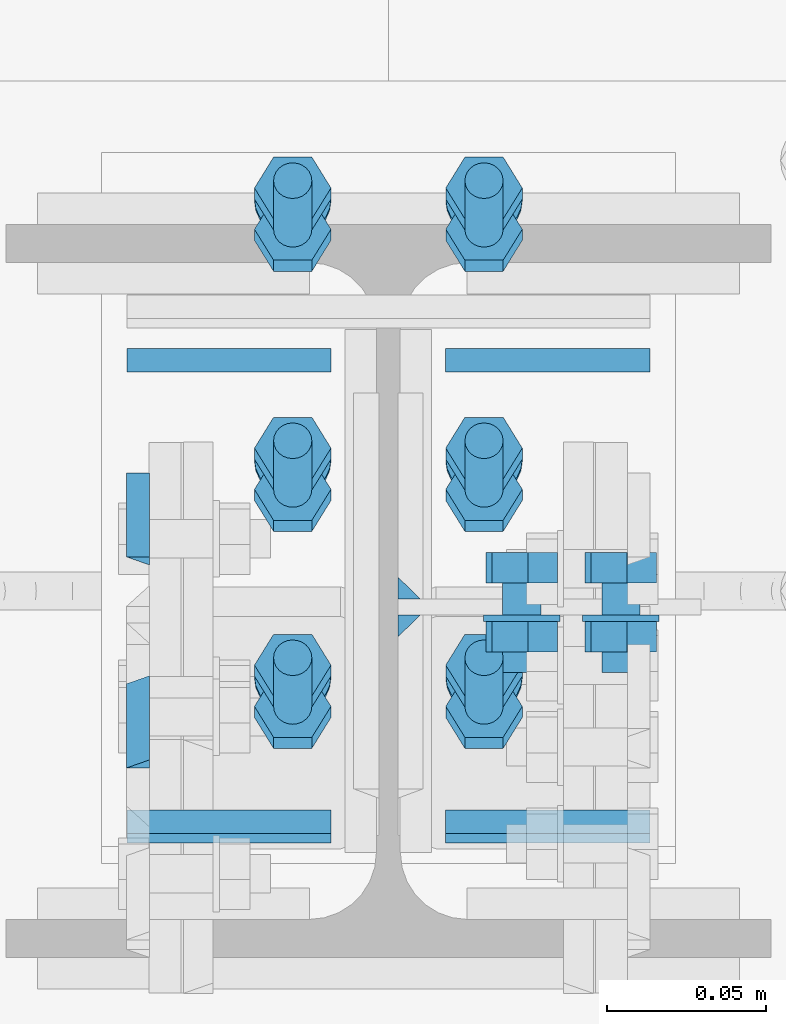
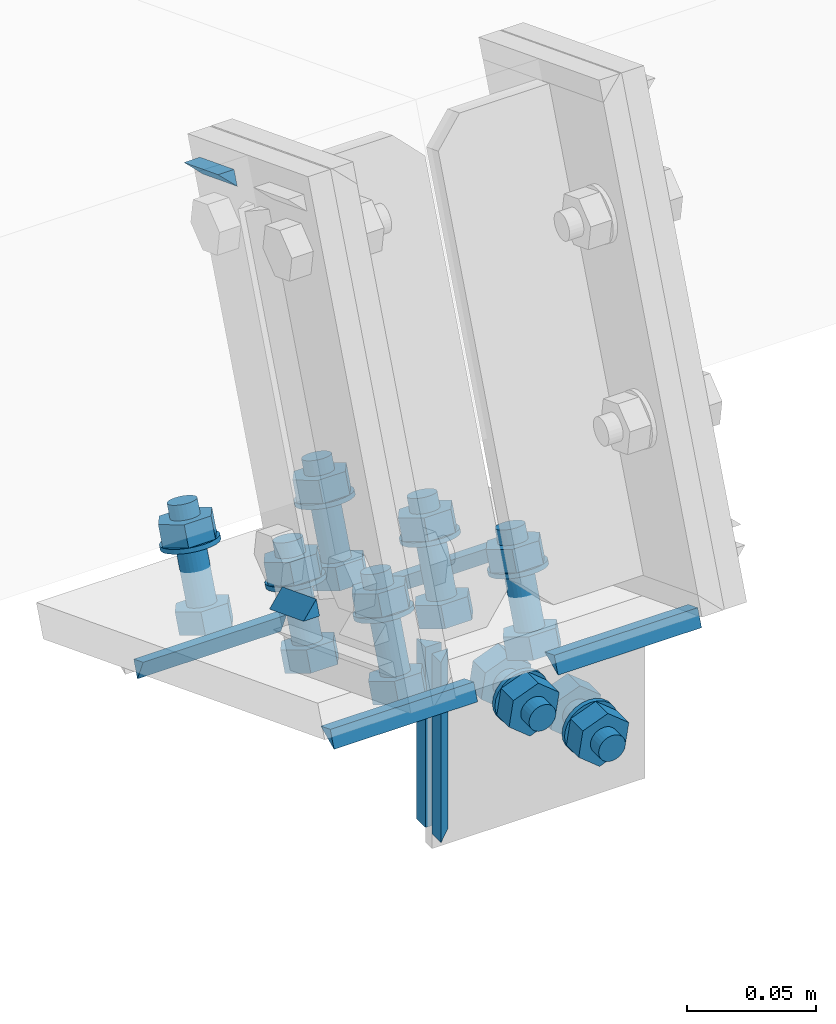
# One storey, part 54 of 72: 32 mechanical fasteners, 11 fasteners.
"""IFC4 building model written with IfcOpenShell, lengths in metres."""

from ifc_helpers import new_model, si_unit, frame, origin_with_axes, place, context, project, spatial, polyline, outline, extrude, type_object, element, save


model = new_model("IFC4")

# Units and contexts
model_context = context("Model", 3, precision=1e-05, world=origin_with_axes())
ifc_project = project(units=[si_unit("LENGTHUNIT", "METRE"), si_unit("AREAUNIT", "SQUARE_METRE"), si_unit("VOLUMEUNIT", "CUBIC_METRE"), si_unit("MASSUNIT", "GRAM", prefix="KILO"), si_unit("TIMEUNIT", "SECOND"), si_unit("PLANEANGLEUNIT", "RADIAN"), si_unit("SOLIDANGLEUNIT", "STERADIAN"), si_unit("THERMODYNAMICTEMPERATUREUNIT", "DEGREE_CELSIUS")], contexts=[model_context])

# Site, building, storey
placement_1 = place(None, origin_with_axes())
site = spatial("IfcSite", under=ifc_project, at=placement_1, Name="Italia", CompositionType="ELEMENT")
building = spatial("IfcBuilding", under=site, at=placement_1, Name="Uffici", CompositionType="ELEMENT")
storey = spatial("IfcBuildingStorey", under=building, at=placement_1, Name="Storey 0", CompositionType="ELEMENT", Elevation=0.0)

# Fasteners
fastener_type_1 = type_object("IfcFastenerType", Name="Collegamento 0204_0104", PredefinedType="WELD")
placement_2 = place(placement_1, origin_with_axes())
fastener_1_placement = place(placement_2, origin_with_axes())
element("IfcFastener", 1, at=fastener_1_placement, inside=storey, type_object=fastener_type_1, Name="Collegamento 0204_0104", context=model_context, shape_type="SweptSolid", body=[
    extrude(outline(polyline([(0.0, 0.0), (-0.0103468, -0.00475454), (-0.00739191, 0.00286627), (0.0, 0.0)])), frame((9.47295, -0.0686362, 7.01462), z_axis=(1.0, 0.0, 0.0), x_axis=(0.0, 1.0, 0.0)), (0.0, 0.0, 1.0), 0.0641003),
])
fastener_type_2 = type_object("IfcFastenerType", Name="Collegamento 0204_0104", PredefinedType="WELD")
fastener_2_placement = place(placement_2, origin_with_axes())
element("IfcFastener", 2, at=fastener_2_placement, inside=storey, type_object=fastener_type_2, Name="Collegamento 0204_0104", context=model_context, shape_type="SweptSolid", body=[
    extrude(outline(polyline([(0.0, 0.0), (-0.0103468, -0.00475454), (-0.00739191, 0.00286627), (0.0, 0.0)])), frame((9.37295, -0.0686362, 7.01462), z_axis=(1.0, 0.0, 0.0), x_axis=(0.0, 1.0, 0.0)), (0.0, 0.0, 1.0), 0.0641003),
])
fastener_type_3 = type_object("IfcFastenerType", Name="Collegamento 0204_0104", PredefinedType="WELD")
fastener_3_placement = place(placement_2, origin_with_axes())
element("IfcFastener", 3, at=fastener_3_placement, inside=storey, type_object=fastener_type_3, Name="Collegamento 0204_0104", context=model_context, shape_type="SweptSolid", body=[
    extrude(outline(polyline([(0.0, 0.0), (-0.00443701, -0.0104866), (-0.00739191, -0.00286627), (0.0, 0.0)])), frame((9.43705, 0.0686731, 6.96138), z_axis=(-1.0, 0.0, 0.0), x_axis=(0.0, -1.0, 0.0)), (0.0, 0.0, 1.0), 0.0641003),
])
fastener_type_4 = type_object("IfcFastenerType", Name="Collegamento 0204_0104", PredefinedType="WELD")
fastener_4_placement = place(placement_2, origin_with_axes())
element("IfcFastener", 4, at=fastener_4_placement, inside=storey, type_object=fastener_type_4, Name="Collegamento 0204_0104", context=model_context, shape_type="SweptSolid", body=[
    extrude(outline(polyline([(0.0, 0.0), (-0.00443701, -0.0104866), (-0.00739191, -0.00286627), (0.0, 0.0)])), frame((9.53705, 0.0686731, 6.96138), z_axis=(-1.0, 0.0, 0.0), x_axis=(0.0, -1.0, 0.0)), (0.0, 0.0, 1.0), 0.0641003),
])
fastener_type_5 = type_object("IfcFastenerType", Name="Collegamento 0204_0104", PredefinedType="WELD")
fastener_5_placement = place(placement_2, origin_with_axes())
element("IfcFastener", 5, at=fastener_5_placement, inside=storey, type_object=fastener_type_5, Name="Collegamento 0204_0104", context=model_context, shape_type="SweptSolid", body=[
    extrude(outline(polyline([(0.0, 0.0), (-0.0103468, -0.00475454), (-0.00739191, 0.00286627), (0.0, 0.0)])), frame((9.47295, -0.0686362, 7.01462), z_axis=(1.0, 0.0, 0.0), x_axis=(0.0, 1.0, 0.0)), (0.0, 0.0, 1.0), 0.0641003),
])
fastener_type_6 = type_object("IfcFastenerType", Name="Collegamento 0204_0104", PredefinedType="WELD")
fastener_6_placement = place(placement_2, origin_with_axes())
element("IfcFastener", 6, at=fastener_6_placement, inside=storey, type_object=fastener_type_6, Name="Collegamento 0204_0104", context=model_context, shape_type="SweptSolid", body=[
    extrude(outline(polyline([(0.0, 0.0), (-0.0103468, -0.00475454), (-0.00739191, 0.00286627), (0.0, 0.0)])), frame((9.37295, -0.0686362, 7.01462), z_axis=(1.0, 0.0, 0.0), x_axis=(0.0, 1.0, 0.0)), (0.0, 0.0, 1.0), 0.0641003),
])
fastener_type_7 = type_object("IfcFastenerType", Name="Collegamento 0204_0104", PredefinedType="WELD")
fastener_7_placement = place(placement_2, origin_with_axes())
element("IfcFastener", 7, at=fastener_7_placement, inside=storey, type_object=fastener_type_7, Name="Collegamento 0204_0104", context=model_context, shape_type="SweptSolid", body=[
    extrude(outline(polyline([(0.0, 0.0), (-0.00443701, -0.0104866), (-0.00739191, -0.00286627), (0.0, 0.0)])), frame((9.43705, 0.0686731, 6.96138), z_axis=(-1.0, 0.0, 0.0), x_axis=(0.0, -1.0, 0.0)), (0.0, 0.0, 1.0), 0.0641003),
])

# Mechanical fasteners
mechanical_fastener_type_1 = type_object("IfcMechanicalFastenerType", Name="Collegamento 0204_0104", PredefinedType="BOLT")
mechanical_fastener_1_placement = place(placement_2, origin_with_axes())
element("IfcMechanicalFastener", 8, at=mechanical_fastener_1_placement, inside=storey, type_object=mechanical_fastener_type_1, Name="Collegamento 0204_0104", NominalDiameter=0.0119997, context=model_context, shape_type="SweptSolid", body=[
    extrude(outline(polyline([(0.0, 0.0), (0.0120001, 0.0), (0.0179996, -0.0103922), (0.0120001, -0.0207846), (0.0, -0.0207846), (-0.00600052, -0.0103922), (0.0, 0.0)])), frame((9.479, 0.103764, 6.94772), z_axis=(0.0, -0.361526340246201, -0.932361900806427), x_axis=(1.0, 0.0, 0.0)), (0.0, 0.0, 1.0), 0.00960004),
])
mechanical_fastener_type_2 = type_object("IfcMechanicalFastenerType", Name="Collegamento 0204_0104", PredefinedType="BOLT")
mechanical_fastener_2_placement = place(placement_2, origin_with_axes())
element("IfcMechanicalFastener", 9, at=mechanical_fastener_2_placement, inside=storey, type_object=mechanical_fastener_type_2, Name="Collegamento 0204_0104", NominalDiameter=0.012, context=model_context, shape_type="SweptSolid", body=[
    extrude(outline(polyline([(0.0, 0.0), (-0.000204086, -0.00155282), (-0.000802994, -0.00300002), (-0.00175667, -0.00424266), (-0.00299931, -0.00519633), (-0.00444698, -0.00579548), (-0.00599957, -0.0059998), (-0.00755215, -0.00579548), (-0.00899982, -0.00519633), (-0.0102425, -0.00424266), (-0.0111961, -0.00300002), (-0.011795, -0.00155282), (-0.0119991, 0.0), (-0.011795, 0.00155282), (-0.0111961, 0.00300002), (-0.0102425, 0.00424266), (-0.00899982, 0.00519633), (-0.00755215, 0.00579548), (-0.00599957, 0.00600004), (-0.00444698, 0.00579548), (-0.00299931, 0.00519633), (-0.00175667, 0.00424266), (-0.000802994, 0.00300002), (-0.000204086, 0.00155282), (0.0, 0.0)])), frame((9.491, 0.12871, 6.9833), z_axis=(0.0, -0.361526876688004, -0.932361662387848), x_axis=(1.0, 0.0, 0.0)), (0.0, 0.0, 1.0), 0.0422001),
])
mechanical_fastener_type_3 = type_object("IfcMechanicalFastenerType", Name="Collegamento 0204_0104", PredefinedType="BOLT")
mechanical_fastener_3_placement = place(placement_2, origin_with_axes())
element("IfcMechanicalFastener", 10, at=mechanical_fastener_3_placement, inside=storey, type_object=mechanical_fastener_type_3, Name="Collegamento 0204_0104", NominalDiameter=0.0119997, context=model_context, shape_type="SweptSolid", body=[
    extrude(outline(polyline([(0.0, 0.0), (0.0120001, 0.0), (0.0179996, -0.0103922), (0.0120001, -0.0207846), (0.0, -0.0207846), (-0.00600052, -0.0103922), (0.0, 0.0)])), frame((9.479, 0.116706, 6.9811), z_axis=(0.0, -0.361526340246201, -0.932361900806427), x_axis=(1.0, 0.0, 0.0)), (0.0, 0.0, 1.0), 0.00960004),
])
mechanical_fastener_type_4 = type_object("IfcMechanicalFastenerType", Name="Collegamento 0204_0104", PredefinedType="BOLT")
mechanical_fastener_4_placement = place(placement_2, origin_with_axes())
element("IfcMechanicalFastener", 11, at=mechanical_fastener_4_placement, inside=storey, type_object=mechanical_fastener_type_4, Name="Collegamento 0204_0104", NominalDiameter=0.024, context=model_context, shape_type="SweptSolid", body=[
    extrude(outline(polyline([(0.0, 0.0), (-0.000409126, -0.00310588), (-0.00160789, -0.00600004), (-0.00351524, -0.00848532), (-0.00600052, -0.0103922), (-0.00889397, -0.0115912), (-0.0120001, -0.0120001), (-0.0151062, -0.0115912), (-0.0179996, -0.0103922), (-0.0204849, -0.00848532), (-0.0223923, -0.00600004), (-0.023591, -0.00310588), (-0.0240002, 0.0), (-0.023591, 0.00310564), (-0.0223923, 0.00600004), (-0.0204849, 0.00848508), (-0.0179996, 0.0103922), (-0.0151062, 0.011591), (-0.0120001, 0.0119998), (-0.00889397, 0.011591), (-0.00600052, 0.0103922), (-0.00351524, 0.00848508), (-0.00160789, 0.00600004), (-0.000409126, 0.00310564), (0.0, 0.0)])), frame((9.497, 0.122925, 6.96839), z_axis=(0.0, -0.361528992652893, -0.932360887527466), x_axis=(1.0, 0.0, 0.0)), (0.0, 0.0, 1.0), 0.0020002),
])
mechanical_fastener_type_5 = type_object("IfcMechanicalFastenerType", Name="Collegamento 0204_0104", PredefinedType="BOLT")
mechanical_fastener_5_placement = place(placement_2, origin_with_axes())
element("IfcMechanicalFastener", 12, at=mechanical_fastener_5_placement, inside=storey, type_object=mechanical_fastener_type_5, Name="Collegamento 0204_0104", NominalDiameter=0.0119997, context=model_context, shape_type="SweptSolid", body=[
    extrude(outline(polyline([(0.0, 0.0), (0.0120001, 0.0), (0.0180006, -0.0103922), (0.0120001, -0.0207846), (0.0, -0.0207846), (-0.00599957, -0.0103922), (0.0, 0.0)])), frame((9.419, 0.103764, 6.94772), z_axis=(0.0, -0.361526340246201, -0.932361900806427), x_axis=(1.0, 0.0, 0.0)), (0.0, 0.0, 1.0), 0.00960004),
])
mechanical_fastener_type_6 = type_object("IfcMechanicalFastenerType", Name="Collegamento 0204_0104", PredefinedType="BOLT")
mechanical_fastener_6_placement = place(placement_2, origin_with_axes())
element("IfcMechanicalFastener", 13, at=mechanical_fastener_6_placement, inside=storey, type_object=mechanical_fastener_type_6, Name="Collegamento 0204_0104", NominalDiameter=0.012, context=model_context, shape_type="SweptSolid", body=[
    extrude(outline(polyline([(0.0, 0.0), (-0.000204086, -0.00155282), (-0.000802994, -0.00300002), (-0.00175667, -0.00424266), (-0.00299931, -0.00519633), (-0.00444698, -0.00579548), (-0.00599957, -0.0059998), (-0.00755215, -0.00579548), (-0.00899982, -0.00519633), (-0.0102425, -0.00424266), (-0.0111961, -0.00300002), (-0.011795, -0.00155282), (-0.0119991, 0.0), (-0.011795, 0.00155282), (-0.0111961, 0.00300002), (-0.0102425, 0.00424266), (-0.00899982, 0.00519633), (-0.00755215, 0.00579548), (-0.00599957, 0.00600004), (-0.00444698, 0.00579548), (-0.00299931, 0.00519633), (-0.00175667, 0.00424266), (-0.000802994, 0.00300002), (-0.000204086, 0.00155282), (0.0, 0.0)])), frame((9.431, 0.12871, 6.9833), z_axis=(0.0, -0.361526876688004, -0.932361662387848), x_axis=(1.0, 0.0, 0.0)), (0.0, 0.0, 1.0), 0.0422001),
])
mechanical_fastener_type_7 = type_object("IfcMechanicalFastenerType", Name="Collegamento 0204_0104", PredefinedType="BOLT")
mechanical_fastener_7_placement = place(placement_2, origin_with_axes())
element("IfcMechanicalFastener", 14, at=mechanical_fastener_7_placement, inside=storey, type_object=mechanical_fastener_type_7, Name="Collegamento 0204_0104", NominalDiameter=0.0119997, context=model_context, shape_type="SweptSolid", body=[
    extrude(outline(polyline([(0.0, 0.0), (0.0120001, 0.0), (0.0180006, -0.0103922), (0.0120001, -0.0207846), (0.0, -0.0207846), (-0.00599957, -0.0103922), (0.0, 0.0)])), frame((9.419, 0.116706, 6.9811), z_axis=(0.0, -0.361526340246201, -0.932361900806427), x_axis=(1.0, 0.0, 0.0)), (0.0, 0.0, 1.0), 0.00960004),
])
mechanical_fastener_type_8 = type_object("IfcMechanicalFastenerType", Name="Collegamento 0204_0104", PredefinedType="BOLT")
mechanical_fastener_8_placement = place(placement_2, origin_with_axes())
element("IfcMechanicalFastener", 15, at=mechanical_fastener_8_placement, inside=storey, type_object=mechanical_fastener_type_8, Name="Collegamento 0204_0104", NominalDiameter=0.024, context=model_context, shape_type="SweptSolid", body=[
    extrude(outline(polyline([(0.0, 0.0), (-0.000409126, -0.00310588), (-0.00160789, -0.00600004), (-0.00351524, -0.00848532), (-0.00600052, -0.0103922), (-0.00889397, -0.0115912), (-0.0120001, -0.0120001), (-0.0151062, -0.0115912), (-0.0179996, -0.0103922), (-0.0204849, -0.00848532), (-0.0223923, -0.00600004), (-0.023591, -0.00310588), (-0.0240002, 0.0), (-0.023591, 0.00310564), (-0.0223923, 0.00600004), (-0.0204849, 0.00848508), (-0.0179996, 0.0103922), (-0.0151062, 0.011591), (-0.0120001, 0.0119998), (-0.00889397, 0.011591), (-0.00600052, 0.0103922), (-0.00351524, 0.00848508), (-0.00160789, 0.00600004), (-0.000409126, 0.00310564), (0.0, 0.0)])), frame((9.437, 0.122925, 6.96839), z_axis=(0.0, -0.361528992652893, -0.932360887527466), x_axis=(1.0, 0.0, 0.0)), (0.0, 0.0, 1.0), 0.0020002),
])
mechanical_fastener_type_9 = type_object("IfcMechanicalFastenerType", Name="Collegamento 0204_0104", PredefinedType="BOLT")
mechanical_fastener_9_placement = place(placement_2, origin_with_axes())
element("IfcMechanicalFastener", 16, at=mechanical_fastener_9_placement, inside=storey, type_object=mechanical_fastener_type_9, Name="Collegamento 0204_0104", NominalDiameter=0.0119998, context=model_context, shape_type="SweptSolid", body=[
    extrude(outline(polyline([(0.0, 0.0), (0.0120001, 0.0), (0.0179996, -0.0103927), (0.0120001, -0.0207849), (0.0, -0.0207849), (-0.00600052, -0.0103927), (0.0, 0.0)])), frame((9.479, -0.0458802, 7.00574), z_axis=(0.0, -0.361526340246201, -0.932361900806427), x_axis=(1.0, 0.0, 0.0)), (0.0, 0.0, 1.0), 0.00960004),
])
mechanical_fastener_type_10 = type_object("IfcMechanicalFastenerType", Name="Collegamento 0204_0104", PredefinedType="BOLT")
mechanical_fastener_10_placement = place(placement_2, origin_with_axes())
element("IfcMechanicalFastener", 17, at=mechanical_fastener_10_placement, inside=storey, type_object=mechanical_fastener_type_10, Name="Collegamento 0204_0104", NominalDiameter=0.012, context=model_context, shape_type="SweptSolid", body=[
    extrude(outline(polyline([(0.0, 0.0), (-0.000204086, -0.00155282), (-0.000802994, -0.00300002), (-0.00175667, -0.00424266), (-0.00299931, -0.00519633), (-0.00444698, -0.00579572), (-0.00599957, -0.00600028), (-0.00755215, -0.00579572), (-0.00899982, -0.00519633), (-0.0102425, -0.00424266), (-0.0111961, -0.00300002), (-0.011795, -0.00155282), (-0.0119991, 0.0), (-0.011795, 0.00155282), (-0.0111961, 0.00300002), (-0.0102425, 0.00424266), (-0.00899982, 0.00519609), (-0.00755215, 0.00579548), (-0.00599957, 0.00600004), (-0.00444698, 0.00579548), (-0.00299931, 0.00519609), (-0.00175667, 0.00424266), (-0.000802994, 0.00300002), (-0.000204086, 0.00155282), (0.0, 0.0)])), frame((9.491, -0.0209343, 7.04133), z_axis=(0.0, -0.361528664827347, -0.932361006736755), x_axis=(1.0, 0.0, 0.0)), (0.0, 0.0, 1.0), 0.0422001),
])
mechanical_fastener_type_11 = type_object("IfcMechanicalFastenerType", Name="Collegamento 0204_0104", PredefinedType="BOLT")
mechanical_fastener_11_placement = place(placement_2, origin_with_axes())
element("IfcMechanicalFastener", 18, at=mechanical_fastener_11_placement, inside=storey, type_object=mechanical_fastener_type_11, Name="Collegamento 0204_0104", NominalDiameter=0.0119997, context=model_context, shape_type="SweptSolid", body=[
    extrude(outline(polyline([(0.0, 0.0), (0.0120001, 0.0), (0.0179996, -0.0103922), (0.0120001, -0.0207844), (0.0, -0.0207844), (-0.00600052, -0.0103922), (0.0, 0.0)])), frame((9.479, -0.0329375, 7.03912), z_axis=(0.0, -0.36154305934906, -0.932355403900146), x_axis=(1.0, 0.0, 0.0)), (0.0, 0.0, 1.0), 0.00959959),
])
mechanical_fastener_type_12 = type_object("IfcMechanicalFastenerType", Name="Collegamento 0204_0104", PredefinedType="BOLT")
mechanical_fastener_12_placement = place(placement_2, origin_with_axes())
element("IfcMechanicalFastener", 19, at=mechanical_fastener_12_placement, inside=storey, type_object=mechanical_fastener_type_12, Name="Collegamento 0204_0104", NominalDiameter=0.024, context=model_context, shape_type="SweptSolid", body=[
    extrude(outline(polyline([(0.0, 0.0), (-0.000409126, -0.00310612), (-0.00160789, -0.00600028), (-0.00351524, -0.00848532), (-0.00600052, -0.0103924), (-0.00889397, -0.0115914), (-0.0120001, -0.0120003), (-0.0151062, -0.0115914), (-0.0179996, -0.0103924), (-0.0204849, -0.00848532), (-0.0223923, -0.00600028), (-0.023591, -0.00310612), (-0.0240002, 0.0), (-0.023591, 0.00310564), (-0.0223923, 0.0059998), (-0.0204849, 0.00848508), (-0.0179996, 0.0103922), (-0.0151062, 0.011591), (-0.0120001, 0.0119998), (-0.00889397, 0.011591), (-0.00600052, 0.0103922), (-0.00351524, 0.00848508), (-0.00160789, 0.0059998), (-0.000409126, 0.00310564), (0.0, 0.0)])), frame((9.497, -0.0267188, 7.02641), z_axis=(0.0, -0.3614162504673, -0.932404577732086), x_axis=(1.0, 0.0, 0.0)), (0.0, 0.0, 1.0), 0.00200062),
])
mechanical_fastener_type_13 = type_object("IfcMechanicalFastenerType", Name="Collegamento 0204_0104", PredefinedType="BOLT")
mechanical_fastener_13_placement = place(placement_2, origin_with_axes())
element("IfcMechanicalFastener", 20, at=mechanical_fastener_13_placement, inside=storey, type_object=mechanical_fastener_type_13, Name="Collegamento 0204_0104", NominalDiameter=0.0119998, context=model_context, shape_type="SweptSolid", body=[
    extrude(outline(polyline([(0.0, 0.0), (0.0120001, 0.0), (0.0180006, -0.0103927), (0.0120001, -0.0207849), (0.0, -0.0207849), (-0.00599957, -0.0103927), (0.0, 0.0)])), frame((9.419, -0.0458802, 7.00574), z_axis=(0.0, -0.361526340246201, -0.932361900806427), x_axis=(1.0, 0.0, 0.0)), (0.0, 0.0, 1.0), 0.00960004),
])
mechanical_fastener_type_14 = type_object("IfcMechanicalFastenerType", Name="Collegamento 0204_0104", PredefinedType="BOLT")
mechanical_fastener_14_placement = place(placement_2, origin_with_axes())
element("IfcMechanicalFastener", 21, at=mechanical_fastener_14_placement, inside=storey, type_object=mechanical_fastener_type_14, Name="Collegamento 0204_0104", NominalDiameter=0.012, context=model_context, shape_type="SweptSolid", body=[
    extrude(outline(polyline([(0.0, 0.0), (-0.000204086, -0.00155282), (-0.000802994, -0.00300002), (-0.00175667, -0.00424266), (-0.00299931, -0.00519633), (-0.00444698, -0.00579572), (-0.00599957, -0.00600028), (-0.00755215, -0.00579572), (-0.00899982, -0.00519633), (-0.0102425, -0.00424266), (-0.0111961, -0.00300002), (-0.011795, -0.00155282), (-0.0119991, 0.0), (-0.011795, 0.00155282), (-0.0111961, 0.00300002), (-0.0102425, 0.00424266), (-0.00899982, 0.00519609), (-0.00755215, 0.00579548), (-0.00599957, 0.00600004), (-0.00444698, 0.00579548), (-0.00299931, 0.00519609), (-0.00175667, 0.00424266), (-0.000802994, 0.00300002), (-0.000204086, 0.00155282), (0.0, 0.0)])), frame((9.431, -0.0209343, 7.04133), z_axis=(0.0, -0.361528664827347, -0.932361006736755), x_axis=(1.0, 0.0, 0.0)), (0.0, 0.0, 1.0), 0.0422001),
])
mechanical_fastener_type_15 = type_object("IfcMechanicalFastenerType", Name="Collegamento 0204_0104", PredefinedType="BOLT")
mechanical_fastener_15_placement = place(placement_2, origin_with_axes())
element("IfcMechanicalFastener", 22, at=mechanical_fastener_15_placement, inside=storey, type_object=mechanical_fastener_type_15, Name="Collegamento 0204_0104", NominalDiameter=0.0119997, context=model_context, shape_type="SweptSolid", body=[
    extrude(outline(polyline([(0.0, 0.0), (0.0120001, 0.0), (0.0180006, -0.0103922), (0.0120001, -0.0207844), (0.0, -0.0207844), (-0.00599957, -0.0103922), (0.0, 0.0)])), frame((9.419, -0.0329375, 7.03912), z_axis=(0.0, -0.36154305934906, -0.932355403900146), x_axis=(1.0, 0.0, 0.0)), (0.0, 0.0, 1.0), 0.00959959),
])
mechanical_fastener_type_16 = type_object("IfcMechanicalFastenerType", Name="Collegamento 0204_0104", PredefinedType="BOLT")
mechanical_fastener_16_placement = place(placement_2, origin_with_axes())
element("IfcMechanicalFastener", 23, at=mechanical_fastener_16_placement, inside=storey, type_object=mechanical_fastener_type_16, Name="Collegamento 0204_0104", NominalDiameter=0.024, context=model_context, shape_type="SweptSolid", body=[
    extrude(outline(polyline([(0.0, 0.0), (-0.000409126, -0.00310612), (-0.00160789, -0.00600028), (-0.00351524, -0.00848532), (-0.00600052, -0.0103924), (-0.00889397, -0.0115914), (-0.0120001, -0.0120003), (-0.0151062, -0.0115914), (-0.0179996, -0.0103924), (-0.0204849, -0.00848532), (-0.0223923, -0.00600028), (-0.023591, -0.00310612), (-0.0240002, 0.0), (-0.023591, 0.00310564), (-0.0223923, 0.0059998), (-0.0204849, 0.00848508), (-0.0179996, 0.0103922), (-0.0151062, 0.011591), (-0.0120001, 0.0119998), (-0.00889397, 0.011591), (-0.00600052, 0.0103922), (-0.00351524, 0.00848508), (-0.00160789, 0.0059998), (-0.000409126, 0.00310564), (0.0, 0.0)])), frame((9.437, -0.0267188, 7.02641), z_axis=(0.0, -0.3614162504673, -0.932404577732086), x_axis=(1.0, 0.0, 0.0)), (0.0, 0.0, 1.0), 0.00200062),
])
mechanical_fastener_type_17 = type_object("IfcMechanicalFastenerType", Name="Collegamento 0204_0104", PredefinedType="BOLT")
mechanical_fastener_17_placement = place(placement_2, origin_with_axes())
element("IfcMechanicalFastener", 24, at=mechanical_fastener_17_placement, inside=storey, type_object=mechanical_fastener_type_17, Name="Collegamento 0204_0104", NominalDiameter=0.0119997, context=model_context, shape_type="SweptSolid", body=[
    extrude(outline(polyline([(0.0, 0.0), (0.0120001, 0.0), (0.0179996, -0.0103924), (0.0120001, -0.0207846), (0.0, -0.0207846), (-0.00600052, -0.0103924), (0.0, 0.0)])), frame((9.479, 0.0221821, 6.97935), z_axis=(0.0, -0.361526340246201, -0.932361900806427), x_axis=(1.0, 0.0, 0.0)), (0.0, 0.0, 1.0), 0.00960004),
])
mechanical_fastener_type_18 = type_object("IfcMechanicalFastenerType", Name="Collegamento 0204_0104", PredefinedType="BOLT")
mechanical_fastener_18_placement = place(placement_2, origin_with_axes())
element("IfcMechanicalFastener", 25, at=mechanical_fastener_18_placement, inside=storey, type_object=mechanical_fastener_type_18, Name="Collegamento 0204_0104", NominalDiameter=0.012, context=model_context, shape_type="SweptSolid", body=[
    extrude(outline(polyline([(0.0, 0.0), (-0.000204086, -0.00155306), (-0.000802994, -0.00300002), (-0.00175667, -0.0042429), (-0.00299931, -0.00519609), (-0.00444698, -0.00579572), (-0.00599957, -0.00600004), (-0.00755215, -0.00579572), (-0.00899982, -0.00519609), (-0.0102425, -0.0042429), (-0.0111961, -0.00300002), (-0.011795, -0.00155306), (-0.0119991, 0.0), (-0.011795, 0.00155282), (-0.0111961, 0.00300002), (-0.0102425, 0.00424266), (-0.00899982, 0.00519609), (-0.00755215, 0.00579548), (-0.00599957, 0.00600004), (-0.00444698, 0.00579548), (-0.00299931, 0.00519609), (-0.00175667, 0.00424266), (-0.000802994, 0.00300002), (-0.000204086, 0.00155282), (0.0, 0.0)])), frame((9.491, 0.047128, 7.01494), z_axis=(0.0, -0.361532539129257, -0.932359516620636), x_axis=(1.0, 0.0, 0.0)), (0.0, 0.0, 1.0), 0.0421997),
])
mechanical_fastener_type_19 = type_object("IfcMechanicalFastenerType", Name="Collegamento 0204_0104", PredefinedType="BOLT")
mechanical_fastener_19_placement = place(placement_2, origin_with_axes())
element("IfcMechanicalFastener", 26, at=mechanical_fastener_19_placement, inside=storey, type_object=mechanical_fastener_type_19, Name="Collegamento 0204_0104", NominalDiameter=0.0119997, context=model_context, shape_type="SweptSolid", body=[
    extrude(outline(polyline([(0.0, 0.0), (0.0120001, 0.0), (0.0179996, -0.0103922), (0.0120001, -0.0207844), (0.0, -0.0207844), (-0.00600052, -0.0103922), (0.0, 0.0)])), frame((9.479, 0.0351248, 7.01273), z_axis=(0.0, -0.361526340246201, -0.932361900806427), x_axis=(1.0, 0.0, 0.0)), (0.0, 0.0, 1.0), 0.00960004),
])
mechanical_fastener_type_20 = type_object("IfcMechanicalFastenerType", Name="Collegamento 0204_0104", PredefinedType="BOLT")
mechanical_fastener_20_placement = place(placement_2, origin_with_axes())
element("IfcMechanicalFastener", 27, at=mechanical_fastener_20_placement, inside=storey, type_object=mechanical_fastener_type_20, Name="Collegamento 0204_0104", NominalDiameter=0.024, context=model_context, shape_type="SweptSolid", body=[
    extrude(outline(polyline([(0.0, 0.0), (-0.000409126, -0.00310588), (-0.00160789, -0.00600004), (-0.00351524, -0.00848532), (-0.00600052, -0.0103924), (-0.00889397, -0.0115912), (-0.0120001, -0.0119998), (-0.0151062, -0.0115912), (-0.0179996, -0.0103924), (-0.0204849, -0.00848532), (-0.0223923, -0.00600004), (-0.023591, -0.00310588), (-0.0240002, 0.0), (-0.023591, 0.00310588), (-0.0223923, 0.00600004), (-0.0204849, 0.00848532), (-0.0179996, 0.0103922), (-0.0151062, 0.0115912), (-0.0120001, 0.0119998), (-0.00889397, 0.0115912), (-0.00600052, 0.0103922), (-0.00351524, 0.00848532), (-0.00160789, 0.00600004), (-0.000409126, 0.00310588), (0.0, 0.0)])), frame((9.497, 0.0413436, 7.00002), z_axis=(0.0, -0.361576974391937, -0.932342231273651), x_axis=(1.0, 0.0, 0.0)), (0.0, 0.0, 1.0), 0.00199973),
])
mechanical_fastener_type_21 = type_object("IfcMechanicalFastenerType", Name="Collegamento 0204_0104", PredefinedType="BOLT")
mechanical_fastener_21_placement = place(placement_2, origin_with_axes())
element("IfcMechanicalFastener", 28, at=mechanical_fastener_21_placement, inside=storey, type_object=mechanical_fastener_type_21, Name="Collegamento 0204_0104", NominalDiameter=0.0119997, context=model_context, shape_type="SweptSolid", body=[
    extrude(outline(polyline([(0.0, 0.0), (0.0120001, 0.0), (0.0180006, -0.0103924), (0.0120001, -0.0207846), (0.0, -0.0207846), (-0.00599957, -0.0103924), (0.0, 0.0)])), frame((9.419, 0.0221821, 6.97935), z_axis=(0.0, -0.361526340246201, -0.932361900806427), x_axis=(1.0, 0.0, 0.0)), (0.0, 0.0, 1.0), 0.00960004),
])
mechanical_fastener_type_22 = type_object("IfcMechanicalFastenerType", Name="Collegamento 0204_0104", PredefinedType="BOLT")
mechanical_fastener_22_placement = place(placement_2, origin_with_axes())
element("IfcMechanicalFastener", 29, at=mechanical_fastener_22_placement, inside=storey, type_object=mechanical_fastener_type_22, Name="Collegamento 0204_0104", NominalDiameter=0.012, context=model_context, shape_type="SweptSolid", body=[
    extrude(outline(polyline([(0.0, 0.0), (-0.000204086, -0.00155306), (-0.000802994, -0.00300002), (-0.00175667, -0.0042429), (-0.00299931, -0.00519609), (-0.00444698, -0.00579572), (-0.00599957, -0.00600004), (-0.00755215, -0.00579572), (-0.00899982, -0.00519609), (-0.0102425, -0.0042429), (-0.0111961, -0.00300002), (-0.011795, -0.00155306), (-0.0119991, 0.0), (-0.011795, 0.00155282), (-0.0111961, 0.00300002), (-0.0102425, 0.00424266), (-0.00899982, 0.00519609), (-0.00755215, 0.00579548), (-0.00599957, 0.00600004), (-0.00444698, 0.00579548), (-0.00299931, 0.00519609), (-0.00175667, 0.00424266), (-0.000802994, 0.00300002), (-0.000204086, 0.00155282), (0.0, 0.0)])), frame((9.431, 0.047128, 7.01494), z_axis=(0.0, -0.361532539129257, -0.932359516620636), x_axis=(1.0, 0.0, 0.0)), (0.0, 0.0, 1.0), 0.0421997),
])
mechanical_fastener_type_23 = type_object("IfcMechanicalFastenerType", Name="Collegamento 0204_0104", PredefinedType="BOLT")
mechanical_fastener_23_placement = place(placement_2, origin_with_axes())
element("IfcMechanicalFastener", 30, at=mechanical_fastener_23_placement, inside=storey, type_object=mechanical_fastener_type_23, Name="Collegamento 0204_0104", NominalDiameter=0.0119997, context=model_context, shape_type="SweptSolid", body=[
    extrude(outline(polyline([(0.0, 0.0), (0.0120001, 0.0), (0.0180006, -0.0103922), (0.0120001, -0.0207844), (0.0, -0.0207844), (-0.00599957, -0.0103922), (0.0, 0.0)])), frame((9.419, 0.0351248, 7.01273), z_axis=(0.0, -0.361526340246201, -0.932361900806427), x_axis=(1.0, 0.0, 0.0)), (0.0, 0.0, 1.0), 0.00960004),
])
mechanical_fastener_type_24 = type_object("IfcMechanicalFastenerType", Name="Collegamento 0204_0104", PredefinedType="BOLT")
mechanical_fastener_24_placement = place(placement_2, origin_with_axes())
element("IfcMechanicalFastener", 31, at=mechanical_fastener_24_placement, inside=storey, type_object=mechanical_fastener_type_24, Name="Collegamento 0204_0104", NominalDiameter=0.024, context=model_context, shape_type="SweptSolid", body=[
    extrude(outline(polyline([(0.0, 0.0), (-0.000409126, -0.00310588), (-0.00160789, -0.00600004), (-0.00351524, -0.00848532), (-0.00600052, -0.0103924), (-0.00889397, -0.0115912), (-0.0120001, -0.0119998), (-0.0151062, -0.0115912), (-0.0179996, -0.0103924), (-0.0204849, -0.00848532), (-0.0223923, -0.00600004), (-0.023591, -0.00310588), (-0.0240002, 0.0), (-0.023591, 0.00310588), (-0.0223923, 0.00600004), (-0.0204849, 0.00848532), (-0.0179996, 0.0103922), (-0.0151062, 0.0115912), (-0.0120001, 0.0119998), (-0.00889397, 0.0115912), (-0.00600052, 0.0103922), (-0.00351524, 0.00848532), (-0.00160789, 0.00600004), (-0.000409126, 0.00310588), (0.0, 0.0)])), frame((9.437, 0.0413436, 7.00002), z_axis=(0.0, -0.361576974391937, -0.932342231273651), x_axis=(1.0, 0.0, 0.0)), (0.0, 0.0, 1.0), 0.00199973),
])
mechanical_fastener_type_25 = type_object("IfcMechanicalFastenerType", Name="Collegamento 0204_0105", PredefinedType="BOLT")
mechanical_fastener_25_placement = place(placement_2, origin_with_axes())
element("IfcMechanicalFastener", 32, at=mechanical_fastener_25_placement, inside=storey, type_object=mechanical_fastener_type_25, Name="Collegamento 0204_0105", NominalDiameter=0.0119996, context=model_context, shape_type="SweptSolid", body=[
    extrude(outline(polyline([(0.0, 0.0), (0.00932503, 0.0075531), (0.00744724, 0.0194049), (-0.00375652, 0.0237045), (-0.0130816, 0.0161514), (-0.0112028, 0.00429964), (0.0, 0.0)])), frame((9.49498, 0.0025, 6.93704), z_axis=(0.0, 1.0, 0.0), x_axis=(-1.0, 0.0, 0.0)), (0.0, 0.0, 1.0), 0.0096),
])
mechanical_fastener_type_26 = type_object("IfcMechanicalFastenerType", Name="Collegamento 0204_0105", PredefinedType="BOLT")
mechanical_fastener_26_placement = place(placement_2, origin_with_axes())
element("IfcMechanicalFastener", 33, at=mechanical_fastener_26_placement, inside=storey, type_object=mechanical_fastener_type_26, Name="Collegamento 0204_0105", NominalDiameter=0.012, context=model_context, shape_type="SweptSolid", body=[
    extrude(outline(polyline([(0.0, 0.0), (-0.000204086, -0.00155306), (-0.000802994, -0.00299978), (-0.00175667, -0.00424242), (-0.00299931, -0.00519609), (-0.00444698, -0.00579548), (-0.00599957, -0.00600004), (-0.00755215, -0.00579548), (-0.00899982, -0.00519609), (-0.0102425, -0.00424242), (-0.0111961, -0.00299978), (-0.011795, -0.00155306), (-0.0119991, 0.0), (-0.011795, 0.00155306), (-0.0111961, 0.00299978), (-0.0102425, 0.00424242), (-0.00899982, 0.00519609), (-0.00755215, 0.00579548), (-0.00599957, 0.00600004), (-0.00444698, 0.00579548), (-0.00299931, 0.00519609), (-0.00175667, 0.00424242), (-0.000802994, 0.00299978), (-0.000204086, 0.00155306), (0.0, 0.0)])), frame((9.49086, -0.0255, 6.9489), z_axis=(0.0, 1.0, 0.0), x_axis=(-1.0, 0.0, 0.0)), (0.0, 0.0, 1.0), 0.028),
])
mechanical_fastener_type_27 = type_object("IfcMechanicalFastenerType", Name="Collegamento 0204_0105", PredefinedType="BOLT")
mechanical_fastener_27_placement = place(placement_2, origin_with_axes())
element("IfcMechanicalFastener", 34, at=mechanical_fastener_27_placement, inside=storey, type_object=mechanical_fastener_type_27, Name="Collegamento 0204_0105", NominalDiameter=0.0119996, context=model_context, shape_type="SweptSolid", body=[
    extrude(outline(polyline([(0.0, 0.0), (0.00932503, 0.0075531), (0.00744724, 0.0194049), (-0.00375652, 0.0237045), (-0.0130816, 0.0161514), (-0.0112028, 0.00429964), (0.0, 0.0)])), frame((9.49498, -0.0191, 6.93704), z_axis=(0.0, 1.0, 0.0), x_axis=(-1.0, 0.0, 0.0)), (0.0, 0.0, 1.0), 0.0096),
])
mechanical_fastener_type_28 = type_object("IfcMechanicalFastenerType", Name="Collegamento 0204_0105", PredefinedType="BOLT")
mechanical_fastener_28_placement = place(placement_2, origin_with_axes())
element("IfcMechanicalFastener", 35, at=mechanical_fastener_28_placement, inside=storey, type_object=mechanical_fastener_type_28, Name="Collegamento 0204_0105", NominalDiameter=0.024, context=model_context, shape_type="SweptSolid", body=[
    extrude(outline(polyline([(0.0, 0.0), (-0.000409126, -0.00310564), (-0.00160789, -0.00600004), (-0.00351524, -0.00848532), (-0.00600052, -0.0103922), (-0.00889397, -0.011591), (-0.0120001, -0.0120001), (-0.0151062, -0.011591), (-0.0179996, -0.0103922), (-0.0204849, -0.00848532), (-0.0223923, -0.00600004), (-0.023591, -0.00310564), (-0.0240002, 0.0), (-0.023591, 0.00310564), (-0.0223923, 0.00600004), (-0.0204849, 0.00848532), (-0.0179996, 0.0103922), (-0.0151062, 0.011591), (-0.0120001, 0.0120001), (-0.00889397, 0.011591), (-0.00600052, 0.0103922), (-0.00351524, 0.00848532), (-0.00160789, 0.00600004), (-0.000409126, 0.00310564), (0.0, 0.0)])), frame((9.48486, -0.0095, 6.9489), z_axis=(0.0, 1.0, 0.0), x_axis=(-1.0, 0.0, 0.0)), (0.0, 0.0, 1.0), 0.002),
])
mechanical_fastener_type_29 = type_object("IfcMechanicalFastenerType", Name="Collegamento 0204_0105", PredefinedType="BOLT")
mechanical_fastener_29_placement = place(placement_2, origin_with_axes())
element("IfcMechanicalFastener", 36, at=mechanical_fastener_29_placement, inside=storey, type_object=mechanical_fastener_type_29, Name="Collegamento 0204_0105", NominalDiameter=0.0119994, context=model_context, shape_type="SweptSolid", body=[
    extrude(outline(polyline([(0.0, 0.0), (0.00932503, 0.00755262), (0.00744629, 0.0194049), (-0.00375652, 0.0237041), (-0.0130816, 0.0161514), (-0.0112038, 0.00429916), (0.0, 0.0)])), frame((9.52606, 0.0025, 6.91187), z_axis=(0.0, 1.0, 0.0), x_axis=(-1.0, 0.0, 0.0)), (0.0, 0.0, 1.0), 0.0096),
])
mechanical_fastener_type_30 = type_object("IfcMechanicalFastenerType", Name="Collegamento 0204_0105", PredefinedType="BOLT")
mechanical_fastener_30_placement = place(placement_2, origin_with_axes())
element("IfcMechanicalFastener", 37, at=mechanical_fastener_30_placement, inside=storey, type_object=mechanical_fastener_type_30, Name="Collegamento 0204_0105", NominalDiameter=0.012, context=model_context, shape_type="SweptSolid", body=[
    extrude(outline(polyline([(0.0, 0.0), (-0.000204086, -0.00155306), (-0.000802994, -0.00299978), (-0.00175667, -0.00424242), (-0.00299931, -0.00519609), (-0.00444698, -0.00579548), (-0.00599957, -0.00600004), (-0.00755215, -0.00579548), (-0.00899982, -0.00519609), (-0.0102425, -0.00424242), (-0.0111961, -0.00299978), (-0.011795, -0.00155306), (-0.0119991, 0.0), (-0.011795, 0.00155306), (-0.0111961, 0.00299978), (-0.0102425, 0.00424242), (-0.00899982, 0.00519609), (-0.00755215, 0.00579548), (-0.00599957, 0.00600004), (-0.00444698, 0.00579548), (-0.00299931, 0.00519609), (-0.00175667, 0.00424242), (-0.000802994, 0.00299978), (-0.000204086, 0.00155306), (0.0, 0.0)])), frame((9.52194, -0.0255, 6.92372), z_axis=(0.0, 1.0, 0.0), x_axis=(-1.0, 0.0, 0.0)), (0.0, 0.0, 1.0), 0.028),
])
mechanical_fastener_type_31 = type_object("IfcMechanicalFastenerType", Name="Collegamento 0204_0105", PredefinedType="BOLT")
mechanical_fastener_31_placement = place(placement_2, origin_with_axes())
element("IfcMechanicalFastener", 38, at=mechanical_fastener_31_placement, inside=storey, type_object=mechanical_fastener_type_31, Name="Collegamento 0204_0105", NominalDiameter=0.0119994, context=model_context, shape_type="SweptSolid", body=[
    extrude(outline(polyline([(0.0, 0.0), (0.00932503, 0.00755262), (0.00744629, 0.0194049), (-0.00375652, 0.0237041), (-0.0130816, 0.0161514), (-0.0112038, 0.00429916), (0.0, 0.0)])), frame((9.52606, -0.0191, 6.91187), z_axis=(0.0, 1.0, 0.0), x_axis=(-1.0, 0.0, 0.0)), (0.0, 0.0, 1.0), 0.0096),
])
mechanical_fastener_type_32 = type_object("IfcMechanicalFastenerType", Name="Collegamento 0204_0105", PredefinedType="BOLT")
mechanical_fastener_32_placement = place(placement_2, origin_with_axes())
element("IfcMechanicalFastener", 39, at=mechanical_fastener_32_placement, inside=storey, type_object=mechanical_fastener_type_32, Name="Collegamento 0204_0105", NominalDiameter=0.024, context=model_context, shape_type="SweptSolid", body=[
    extrude(outline(polyline([(0.0, 0.0), (-0.000409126, -0.00310564), (-0.00160789, -0.00600004), (-0.00351524, -0.00848532), (-0.00600052, -0.0103922), (-0.00889397, -0.011591), (-0.0120001, -0.0120001), (-0.0151062, -0.011591), (-0.0179996, -0.0103922), (-0.0204849, -0.00848532), (-0.0223923, -0.00600004), (-0.023591, -0.00310564), (-0.0240002, 0.0), (-0.023591, 0.00310564), (-0.0223923, 0.00600004), (-0.0204849, 0.00848532), (-0.0179996, 0.0103922), (-0.0151062, 0.011591), (-0.0120001, 0.0120001), (-0.00889397, 0.011591), (-0.00600052, 0.0103922), (-0.00351524, 0.00848532), (-0.00160789, 0.00600004), (-0.000409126, 0.00310564), (0.0, 0.0)])), frame((9.51594, -0.0095, 6.92372), z_axis=(0.0, 1.0, 0.0), x_axis=(-1.0, 0.0, 0.0)), (0.0, 0.0, 1.0), 0.002),
])

# Fasteners
fastener_type_8 = type_object("IfcFastenerType", Name="Collegamento 0204_0105", PredefinedType="WELD")
fastener_8_placement = place(placement_2, origin_with_axes())
element("IfcFastener", 40, at=fastener_8_placement, inside=storey, type_object=fastener_type_8, Name="Collegamento 0204_0105", context=model_context, shape_type="SweptSolid", body=[
    extrude(outline(polyline([(0.0, 0.0), (0.00695815, 0.00717258), (0.00695815, 0.0), (0.0, 0.0)])), frame((9.45795, -0.0144082, 6.98192), z_axis=(0.0, 0.0, -1.0), x_axis=(0.0, 1.0, 0.0)), (0.0, 0.0, 1.0), 0.0851011),
])
fastener_type_9 = type_object("IfcFastenerType", Name="Collegamento 0204_0105", PredefinedType="WELD")
fastener_9_placement = place(placement_2, origin_with_axes())
element("IfcFastener", 41, at=fastener_9_placement, inside=storey, type_object=fastener_type_9, Name="Collegamento 0204_0105", context=model_context, shape_type="SweptSolid", body=[
    extrude(outline(polyline([(0.0, 0.0), (-0.00695816, -0.00717258), (-0.00695816, 0.0), (0.0, 0.0)])), frame((9.45795, 0.00440816, 6.89682), z_axis=(0.0, 0.0, 1.0), x_axis=(0.0, 1.0, 0.0)), (0.0, 0.0, 1.0), 0.0851011),
])
fastener_type_10 = type_object("IfcFastenerType", Name="Collegamento 0204_0203", PredefinedType="WELD")
fastener_10_placement = place(placement_2, origin_with_axes())
element("IfcFastener", 42, at=fastener_10_placement, inside=storey, type_object=fastener_type_10, Name="Collegamento 0204_0203", context=model_context, shape_type="SweptSolid", body=[
    extrude(outline(polyline([(0.0, 0.0), (-0.00717354, 0.00695801), (0.0, 0.00695801), (0.0, 0.0)])), frame((9.38005, 0.0345697, 7.21007), z_axis=(0.0, -0.932385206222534, 0.361466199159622), x_axis=(1.0, 0.0, 0.0)), (0.0, 0.0, 1.0), 0.0283003),
])
fastener_type_11 = type_object("IfcFastenerType", Name="Collegamento 0204_0203", PredefinedType="WELD")
fastener_11_placement = place(placement_2, origin_with_axes())
element("IfcFastener", 43, at=fastener_11_placement, inside=storey, type_object=fastener_type_11, Name="Collegamento 0204_0203", context=model_context, shape_type="SweptSolid", body=[
    extrude(outline(polyline([(0.0, 0.0), (0.00717354, -0.00695753), (0.0, -0.00695753), (0.0, 0.0)])), frame((9.38005, -0.0529705, 7.06256), z_axis=(0.0, 0.932390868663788, -0.36145156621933), x_axis=(-1.0, 0.0, 0.0)), (0.0, 0.0, 1.0), 0.0283001),
])

save(model, "model.ifc")
